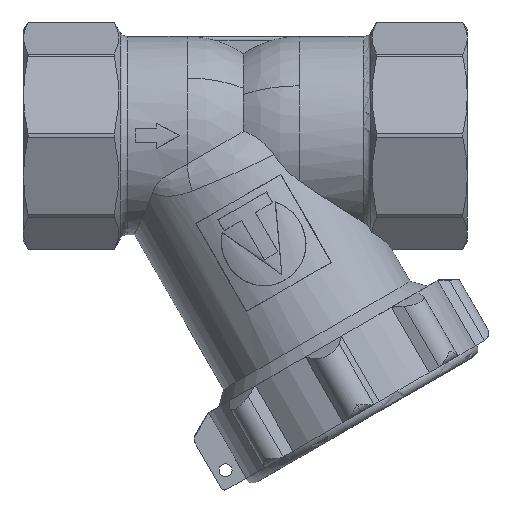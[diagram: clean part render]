
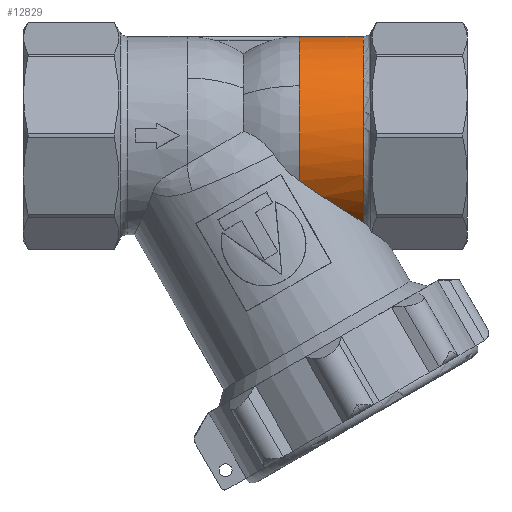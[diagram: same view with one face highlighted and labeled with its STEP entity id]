
A CAD part, front view. The second image highlights one B-rep face of the part: STEP entity #12829.
In plain terms, the highlighted cylindrical face has radius 11.5 mm (diameter 23 mm), a partial arc.
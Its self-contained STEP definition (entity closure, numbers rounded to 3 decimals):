
#313=CARTESIAN_POINT('',(29.423,-5.545,-10.075));
#314=VERTEX_POINT('',#313);
#370=CARTESIAN_POINT('',(29.423,-0.,11.5));
#371=VERTEX_POINT('',#370);
#379=CARTESIAN_POINT('',(29.423,0.,0.));
#380=DIRECTION('',(-1.,0.,-0.));
#381=DIRECTION('',(0.,0.,-1.));
#382=AXIS2_PLACEMENT_3D('',#379,#380,#381);
#383=CIRCLE('',#382,11.5);
#384=EDGE_CURVE('',#314,#371,#383,.T.);
#1377=CARTESIAN_POINT('',(22.,-9.943,5.778));
#1378=VERTEX_POINT('',#1377);
#1386=CARTESIAN_POINT('',(22.,0.,11.5));
#1387=VERTEX_POINT('',#1386);
#1388=CARTESIAN_POINT('',(22.,0.,-0.));
#1389=DIRECTION('',(-1.,0.,-0.));
#1390=DIRECTION('',(-0.,0.,1.));
#1391=AXIS2_PLACEMENT_3D('',#1388,#1389,#1390);
#1392=CIRCLE('',#1391,11.5);
#1393=EDGE_CURVE('',#1378,#1387,#1392,.T.);
#1507=CARTESIAN_POINT('',(22.,0.,11.5));
#1508=DIRECTION('',(1.,-0.,0.));
#1509=VECTOR('',#1508,7.423);
#1510=LINE('',#1507,#1509);
#1511=EDGE_CURVE('',#1387,#371,#1510,.T.);
#6838=CARTESIAN_POINT('',(22.,-10.229,-5.255));
#6839=VERTEX_POINT('',#6838);
#6840=CARTESIAN_POINT('',(22.,-10.229,-5.255));
#6841=CARTESIAN_POINT('',(22.665,-9.989,-5.722));
#6842=CARTESIAN_POINT('',(23.326,-9.719,-6.17));
#6843=CARTESIAN_POINT('',(23.977,-9.416,-6.603));
#6844=CARTESIAN_POINT('',(24.628,-9.112,-7.035));
#6845=CARTESIAN_POINT('',(25.269,-8.776,-7.452));
#6846=CARTESIAN_POINT('',(25.896,-8.399,-7.855));
#6847=CARTESIAN_POINT('',(26.523,-8.022,-8.258));
#6848=CARTESIAN_POINT('',(27.137,-7.606,-8.646));
#6849=CARTESIAN_POINT('',(27.729,-7.136,-9.019));
#6850=CARTESIAN_POINT('',(28.025,-6.9,-9.205));
#6851=CARTESIAN_POINT('',(28.316,-6.652,-9.386));
#6852=CARTESIAN_POINT('',(28.6,-6.386,-9.564));
#6853=CARTESIAN_POINT('',(28.885,-6.121,-9.741));
#6854=CARTESIAN_POINT('',(29.16,-5.841,-9.912));
#6855=CARTESIAN_POINT('',(29.423,-5.545,-10.075));
#6856=B_SPLINE_CURVE_WITH_KNOTS('',3,(#6840,#6841,#6842,#6843,#6844,#6845,#6846,#6847,#6848,#6849,#6850,#6851,#6852,#6853,#6854,#6855),.UNSPECIFIED.,.F.,.F.,(4,3,3,3,3,4),(0.,0.003,0.005,0.008,0.009,0.01),.UNSPECIFIED.);
#6857=EDGE_CURVE('',#6839,#314,#6856,.T.);
#12807=CARTESIAN_POINT('',(22.,0.,-0.));
#12808=DIRECTION('',(-1.,0.,-0.));
#12809=DIRECTION('',(-0.,0.,1.));
#12810=AXIS2_PLACEMENT_3D('',#12807,#12808,#12809);
#12811=CIRCLE('',#12810,11.5);
#12812=EDGE_CURVE('',#6839,#1378,#12811,.T.);
#12817=CARTESIAN_POINT('',(26.,0.,0.));
#12818=DIRECTION('',(-1.,0.,-0.));
#12819=DIRECTION('',(-0.,0.,1.));
#12820=AXIS2_PLACEMENT_3D('',#12817,#12818,#12819);
#12821=CYLINDRICAL_SURFACE('',#12820,11.5);
#12822=ORIENTED_EDGE('',*,*,#1511,.F.);
#12823=ORIENTED_EDGE('',*,*,#1393,.F.);
#12824=ORIENTED_EDGE('',*,*,#12812,.F.);
#12825=ORIENTED_EDGE('',*,*,#6857,.T.);
#12826=ORIENTED_EDGE('',*,*,#384,.T.);
#12827=EDGE_LOOP('',(#12822,#12823,#12824,#12825,#12826));
#12828=FACE_BOUND('',#12827,.T.);
#12829=ADVANCED_FACE('',(#12828),#12821,.T.);
